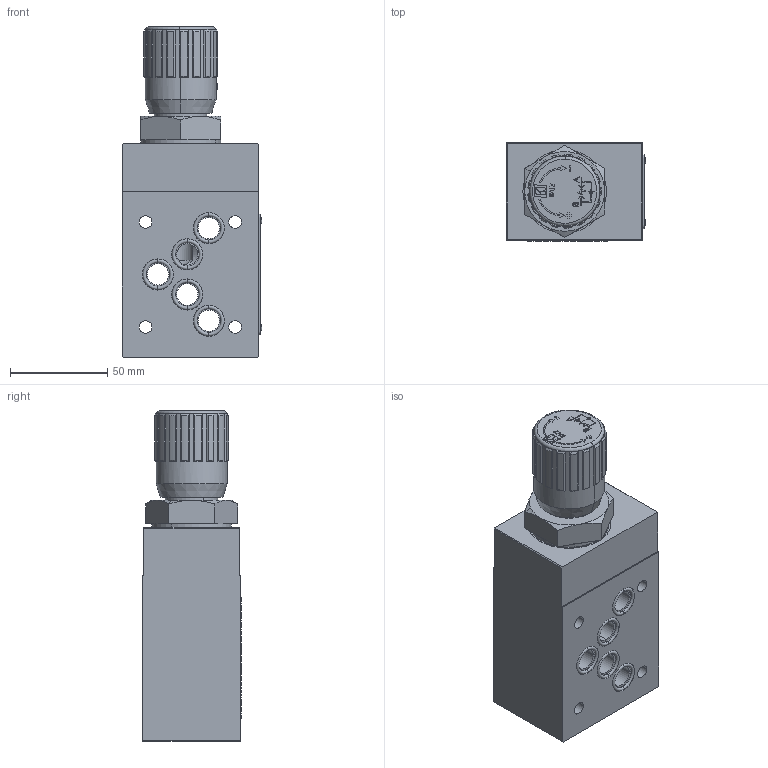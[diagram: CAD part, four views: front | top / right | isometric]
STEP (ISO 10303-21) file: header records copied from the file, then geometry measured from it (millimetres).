
FILE_DESCRIPTION (( 'STEP AP214' ), '1' );
FILE_NAME ('357-5-A-05-H.STEP', '2020-06-01T11:50:11', ( '' ), ( '' ), 'SwSTEP 2.0', 'SolidWorks 2018', '' );
FILE_SCHEMA (( 'AUTOMOTIVE_DESIGN' ));
Length unit declared in the file: millimetre
Products named in the file (22): MOLLA 2257-6.009.00.0-12_COMPRESSA; CORPO CARTUCCIA 357-5-AB.101.00.0-05; OR2050; BK 106; SPILLO DI REGOLAZIONE 267-5.002.00.1-12; VOLANTINO DI MANOVRA 257-2.005.00.0-12_Tipo12; VITE DI REGOLAZIONE 267-5.017.00.0-12; DISCO FASCETTA 257-1.004.00.1-12; CAPPUCCIO VOLANTINO 257-5.007.00.1-12_Tipo12; 357-5-A-05-H; BUSSOLA DI TENUTA 267-5.018.00.0-12; RIVETTO D=2 x L=4.6 TAPDM1BS LD FASTENERS; GRANO DI BLOCCAGGIO M5X8_Tipo18; VALVOLA TENUTA METALLICA 267-5.008.00.1-12; VITE TESTA BOMBATA 257-1.006.00.1-12; OR4112; OR 106; CORPO VALVOLA 357-5-A.001.00-H-05; OR 3081; 267-5-12 NO CORPO CARTUCCIA; TARGHETTA 357-5-A.015.00-05-H; ANELLO DI FERMO 1251-2.003.00.1-34
Assembly tree (28 placements, depth 3):
  357-5-A-05-H
    OR2050  x5
    OR4112
    CORPO CARTUCCIA 357-5-AB.101.00.0-05
    RIVETTO D=2 x L=4.6 TAPDM1BS LD FASTENERS  x4
    267-5-12 NO CORPO CARTUCCIA
      BUSSOLA DI TENUTA 267-5.018.00.0-12
      OR 106
      OR 3081
      SPILLO DI REGOLAZIONE 267-5.002.00.1-12
      VALVOLA TENUTA METALLICA 267-5.008.00.1-12
      VITE DI REGOLAZIONE 267-5.017.00.0-12
      BK 106
      DISCO FASCETTA 257-1.004.00.1-12
      VITE TESTA BOMBATA 257-1.006.00.1-12
      VOLANTINO DI MANOVRA 257-2.005.00.0-12_Tipo12
      CAPPUCCIO VOLANTINO 257-5.007.00.1-12_Tipo12
      ANELLO DI FERMO 1251-2.003.00.1-34
      GRANO DI BLOCCAGGIO M5X8_Tipo18
      MOLLA 2257-6.009.00.0-12_COMPRESSA
    CORPO VALVOLA 357-5-A.001.00-H-05
    TARGHETTA 357-5-A.015.00-05-H
Bounding box: 71.66 x 50.58 x 169.8 mm (x, y, z)
Volume: 404685.9 mm3; surface area: 98785.1 mm2
Topology: 27 solids, 27 shells, 2221 faces, 5692 edges, 3703 vertices
Faces by surface type: plane 1234, cylinder 363, bspline 346, cone 220, torus 50, sphere 8
Entity records: 107683 total; most frequent: CARTESIAN_POINT 40586, ORIENTED_EDGE 11076, DIRECTION 9054, EDGE_CURVE 5538, LINE 3654, VECTOR 3654, VERTEX_POINT 3621, AXIS2_PLACEMENT_3D 2700
